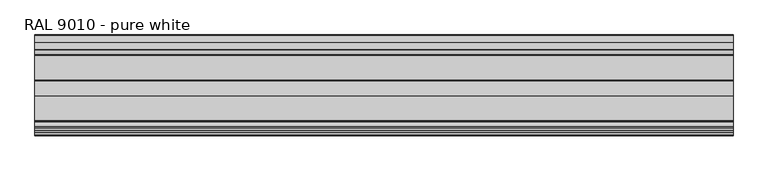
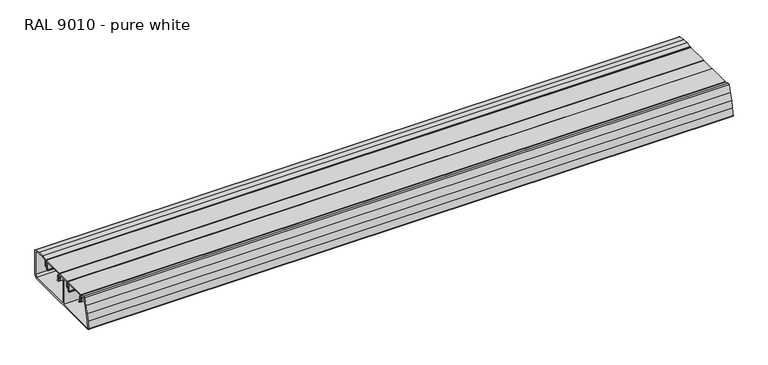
"""IFC4 building model written with IfcOpenShell, lengths in millimetres: proxy geometry, Electrical_Installations_Hager_GBD-Curved-Lid-End-Cap : RAL 9010 - pure white."""

from ifc_helpers import new_model, si_unit, point, frame, frame_2d, origin, place, context, project, spatial, polyline, circle_curve, trimmed, segment, composite_curve, outline, extrude, source, transform, mapped, element, save


def ral_9010_pure_white_c73d6e27(model_context):
    return source(origin(), model_context, "Body", "SweptSolid", [
        extrude(outline(composite_curve([segment(polyline([(-85.2368553, -25.0), (-6.25, -25.0), (-6.25, 25.0), (-15.95, 25.0), (-15.95, 14.96875), (-20.25, 14.96875), (-20.25, 18.7637258), (-19.25, 18.7637258), (-19.25, 16.3), (-17.75, 16.3), (-17.75, 27.0), (7.25, 27.0), (7.25, 16.3), (8.75, 16.3), (8.75, 18.7441115), (9.75, 18.7441115), (9.75, 14.5), (5.45, 14.5), (5.45, 25.0), (-4.25, 25.0), (-4.25, -25.0), (81.2473088, -25.0), (85.2, -21.0473088), (85.2, 25.0790901), (73.4084992, 26.7822965), (61.8792753, 27.7103781), (54.05, 25.1664923), (54.05, 14.5), (49.75, 14.5), (49.75, 18.7391101), (50.75, 18.7391101), (50.75, 16.3), (52.25, 16.3), (52.25, 26.2703589)]), True, "CONTINUOUS"), segment(trimmed(circle_curve(frame_2d((53.2542649, 26.2703589)), 1.0042649), [point((52.25, 26.2703589))], [point((52.94393, 27.2254715))], False, "CARTESIAN"), True, "CONTINUOUS"), segment(polyline([(52.94393, 27.2254715), (61.1647105, 29.896565)]), True, "CONTINUOUS"), segment(trimmed(circle_curve(frame_2d((61.8535718, 27.776468)), 2.229202), [point((61.1647105, 29.896565))], [point((62.0324399, 29.9984823))], False, "CARTESIAN"), True, "CONTINUOUS"), segment(polyline([(62.0324399, 29.9984823), (73.960524, 29.0382932), (85.7542621, 27.3347636)]), True, "CONTINUOUS"), segment(trimmed(circle_curve(frame_2d((85.4630616, 25.3187476)), 2.0369384), [point((85.7542621, 27.3347636))], [point((87.5, 25.3187476))], False, "CARTESIAN"), True, "CONTINUOUS"), segment(polyline([(87.5, 25.3187476), (87.5, -22.0), (82.5, -27.0), (-85.4371356, -27.0)]), True, "CONTINUOUS"), segment(trimmed(circle_curve(frame_2d((-85.4371356, -24.9109785)), 2.0890215), [point((-85.4371356, -27.0))], [point((-87.5045544, -24.6113283))], False, "CARTESIAN"), True, "CONTINUOUS"), segment(polyline([(-87.5045544, -24.6113283), (-85.4928777, -10.7318848), (-82.665273, 2.5001298), (-78.9366987, 15.5032139), (-74.2325269, 28.6175358)]), True, "CONTINUOUS"), segment(trimmed(circle_curve(frame_2d((-72.2816269, 27.9177383)), 2.0726137), [point((-74.2325269, 28.6175358))], [point((-71.641154, 29.8889111))], False, "CARTESIAN"), True, "CONTINUOUS"), segment(polyline([(-71.641154, 29.8889111), (-63.6327057, 27.2868085)]), True, "CONTINUOUS"), segment(trimmed(circle_curve(frame_2d((-63.9575866, 26.286928)), 1.0513366), [point((-63.6327057, 27.2868085))], [point((-62.90625, 26.286928))], False, "CARTESIAN"), True, "CONTINUOUS"), segment(polyline([(-62.90625, 26.286928), (-62.90625, 16.3), (-61.25, 16.3), (-61.25, 18.7177382), (-60.25, 18.7177382), (-60.25, 14.96875), (-64.55, 14.96875), (-64.55, 25.1664923), (-72.1420805, 27.6333088), (-76.7464574, 14.7971958), (-80.4325779, 1.9421659), (-83.2276507, -11.1376133), (-85.2368553, -25.0)]), True, "CONTINUOUS")], self_intersect=False)), frame((0.0, 0.0, 0.0), z_axis=(1.0, 0.0, 0.0), x_axis=(0.0, 1.0, 0.0)), (0.0, 0.0, 1.0), 1212.1445422),
        extrude(outline(composite_curve([segment(polyline([(-19.317297, 25.7013932), (-61.217297, 25.7013932), (-61.217297, 22.4013932), (-57.767297, 22.4013932), (-57.767297, 10.8013932), (-55.867297, 10.8013932), (-55.867297, 10.0013932), (-58.767297, 10.0013932), (-58.767297, 21.4013932), (-61.5204385, 21.4013932), (-61.5204385, 17.0930522), (-62.5219845, 17.0930522), (-62.5219845, 26.2097868)]), True, "CONTINUOUS"), segment(trimmed(circle_curve(frame_2d((-61.6120226, 26.2097868)), 0.9099619), [point((-62.5219845, 26.2097868))], [point((-61.6120226, 27.1197487))], False, "CARTESIAN"), True, "CONTINUOUS"), segment(polyline([(-61.6120226, 27.1197487), (-19.1379774, 27.1197487)]), True, "CONTINUOUS"), segment(trimmed(circle_curve(frame_2d((-19.1379774, 26.1115683)), 1.0081804), [point((-19.1379774, 27.1197487))], [point((-18.129797, 26.1115683))], False, "CARTESIAN"), True, "CONTINUOUS"), segment(polyline([(-18.129797, 26.1115683), (-18.129797, 17.0930522), (-19.0141556, 17.0930522), (-19.0141556, 21.4013932), (-21.767297, 21.4013932), (-21.767297, 10.0013932), (-24.667297, 10.0013932), (-24.667297, 10.8013932), (-22.767297, 10.8013932), (-22.767297, 22.4013932), (-19.317297, 22.4013932), (-19.317297, 25.7013932)]), True, "CONTINUOUS")], self_intersect=False)), frame((0.0, 0.0, 0.0), z_axis=(1.0, 0.0, 0.0), x_axis=(0.0, 1.0, 0.0)), (0.0, 0.0, 1.0), 1212.1445422),
        extrude(outline(composite_curve([segment(polyline([(50.7405963, 25.7013932), (8.8405963, 25.7013932), (8.8405963, 22.4013932), (12.2905963, 22.4013932), (12.2905963, 10.8013932), (14.1905963, 10.8013932), (14.1905963, 10.0013932), (11.2905963, 10.0013932), (11.2905963, 21.4013932), (8.5374548, 21.4013932), (8.5374548, 17.0930522), (7.5359088, 17.0930522), (7.5359088, 26.2097868)]), True, "CONTINUOUS"), segment(trimmed(circle_curve(frame_2d((8.4458707, 26.2097868)), 0.9099619), [point((7.5359088, 26.2097868))], [point((8.4458707, 27.1197487))], False, "CARTESIAN"), True, "CONTINUOUS"), segment(polyline([(8.4458707, 27.1197487), (50.9199159, 27.1197487)]), True, "CONTINUOUS"), segment(trimmed(circle_curve(frame_2d((50.9199159, 26.1115683)), 1.0081804), [point((50.9199159, 27.1197487))], [point((51.9280963, 26.1115683))], False, "CARTESIAN"), True, "CONTINUOUS"), segment(polyline([(51.9280963, 26.1115683), (51.9280963, 17.0930522), (51.0437378, 17.0930522), (51.0437378, 21.4013932), (48.2905963, 21.4013932), (48.2905963, 10.0013932), (45.3905963, 10.0013932), (45.3905963, 10.8013932), (47.2905963, 10.8013932), (47.2905963, 22.4013932), (50.7405963, 22.4013932), (50.7405963, 25.7013932)]), True, "CONTINUOUS")], self_intersect=False)), frame((0.0, 0.0, 0.0), z_axis=(1.0, 0.0, 0.0), x_axis=(0.0, 1.0, 0.0)), (0.0, 0.0, 1.0), 1212.1445422),
    ])


if __name__ == "__main__":
    model = new_model("IFC4")
    model_context = context("Model", 3, world=origin())
    ifc_project = project(units=[si_unit("LENGTHUNIT", "METRE", prefix="MILLI")], contexts=[model_context])
    site = spatial("IfcSite", under=ifc_project)
    building = spatial("IfcBuilding", under=site)
    placement = place(None, origin())
    ral_9010_pure_white_shape = ral_9010_pure_white_c73d6e27(model_context)
    element("IfcBuildingElementProxy", 1, Name="Electrical_Installations_Hager_GBD-Curved-Lid-End-Cap : RAL 9010 - pure white", ObjectType="Electrical_Installations_Hager_GBD-Curved-Lid-End-Cap : RAL 9010 - pure white", at=placement, inside=building, context=model_context, shape_type="MappedRepresentation", body=[
        mapped(ral_9010_pure_white_shape, transform((0.0, 0.0, 0.0), x_axis=(1.0, 0.0, 0.0), y_axis=(0.0, 1.0, 0.0), z_axis=(0.0, 0.0, 1.0))),
    ])
    save(model, "model.ifc")
